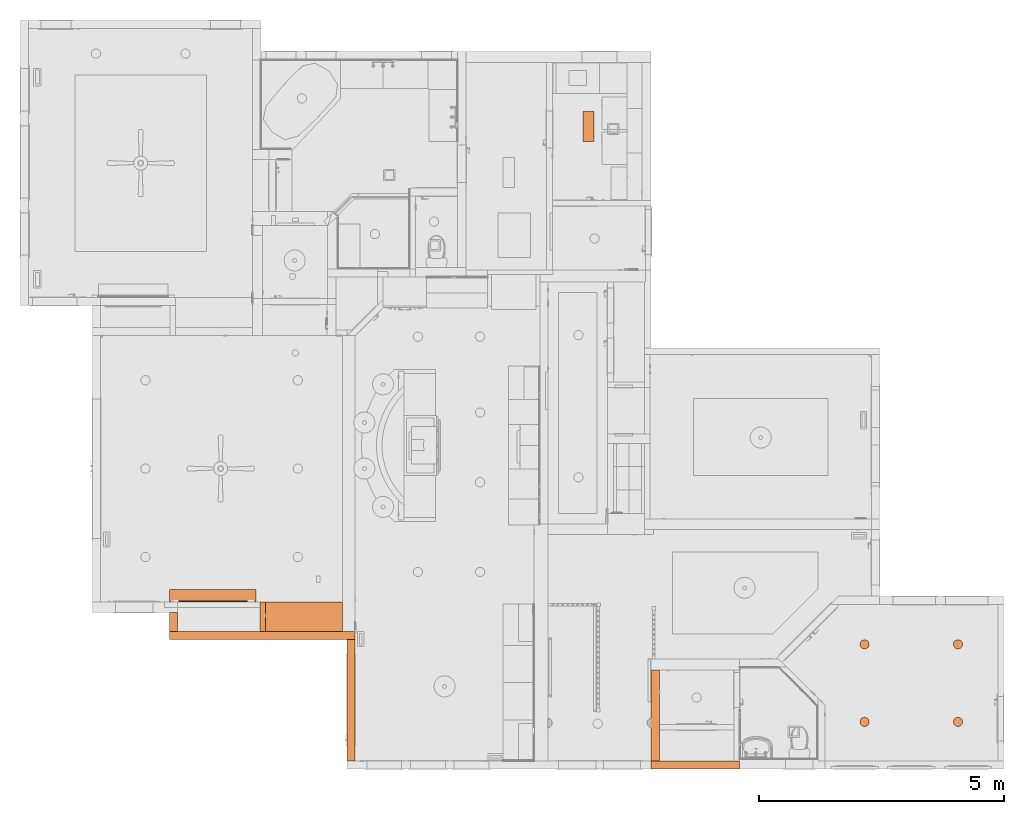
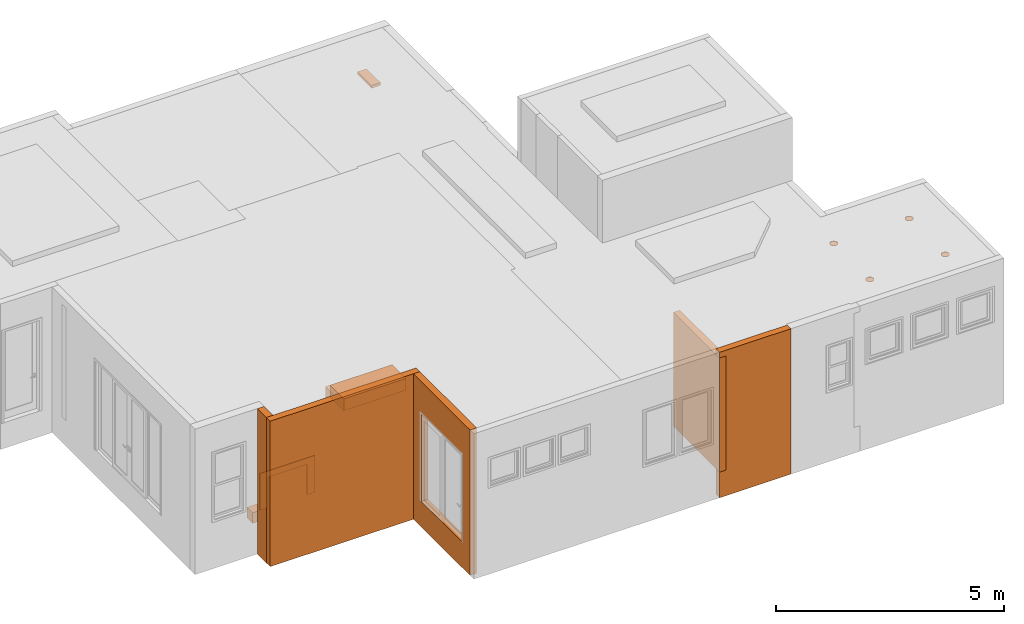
# One storey, part 76 of 103: 15 proxies.
"""IFC2X3 building model written with IfcOpenShell, lengths in inches."""

from ifc_helpers import new_model, entity, si_unit, converted_unit, derived_unit, money_unit, direction, frame, origin_with_axes, place, context, subcontext, project, spatial, open_shell, faceted_brep, surface_model, source, transform, mapped, material, type_object, element, save


model = new_model("IFC2X3")

# Units and contexts
model_context = context("Model", 3, precision=0.00039370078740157, world=origin_with_axes(), true_north=direction((0.0, 1.0)))
plan_context = context("Plan", 3, precision=0.00039370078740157, world=origin_with_axes(), true_north=direction((0.0, 1.0)))
body_context = subcontext(model_context, "Body", "Model", "MODEL_VIEW")
ifc_project = project(units=[converted_unit("LENGTHUNIT", "INCH", entity("IfcPositiveLengthMeasure", 0.0254), si_unit("LENGTHUNIT", "METRE"), dimensions=[1, 0, 0, 0, 0, 0, 0]), converted_unit("AREAUNIT", "SQUARE_FOOT", entity("IfcPositiveLengthMeasure", 0.09290304), si_unit("AREAUNIT", "SQUARE_METRE"), dimensions=[2, 0, 0, 0, 0, 0, 0]), si_unit("PLANEANGLEUNIT", "RADIAN"), si_unit("SOLIDANGLEUNIT", "STERADIAN"), money_unit("USD"), converted_unit("TIMEUNIT", "Year", entity("IfcTimeMeasure", 31557600.0), si_unit("TIMEUNIT", "SECOND"), dimensions=[0, 0, 1, 0, 0, 0, 0]), si_unit("MASSUNIT", "GRAM", prefix="KILO"), si_unit("THERMODYNAMICTEMPERATUREUNIT", "DEGREE_CELSIUS"), si_unit("LUMINOUSINTENSITYUNIT", "LUMEN"), si_unit("ENERGYUNIT", "JOULE", prefix="MEGA"), derived_unit("SPECIFICHEATCAPACITYUNIT", [(si_unit("ENERGYUNIT", "JOULE"), 1), (si_unit("MASSUNIT", "GRAM", prefix="KILO"), -1), (si_unit("THERMODYNAMICTEMPERATUREUNIT", "KELVIN"), -1)])], contexts=[model_context, plan_context])

# Site, building, storey
site_placement = place(None, origin_with_axes())
site = spatial("IfcSite", under=ifc_project, at=site_placement, Name="Site", CompositionType="ELEMENT")
building_placement = place(site_placement, origin_with_axes())
building = spatial("IfcBuilding", under=site, at=building_placement, Name="Building", CompositionType="ELEMENT")
storey_placement = place(building_placement, frame((0.0, 0.0, 127.9999999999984), z_axis=(0.0, 0.0, 1.0), x_axis=(1.0, 0.0, 0.0)))
storey = spatial("IfcBuildingStorey", under=building, at=storey_placement, Name="Second Floor", CompositionType="ELEMENT", Elevation=128.0)

# Proxies
building_element_proxy_type_1 = type_object("IfcBuildingElementProxyType", Name="Recessed Spot", PredefinedType="NOTDEFINED")
shared_shape_1 = source(origin_with_axes(), body_context, "Body", "SurfaceModel", [
    faceted_brep([(3.749999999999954, 0.0, -0.4999999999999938), (3.523847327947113, 1.282575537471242, -0.4999999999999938), (3.523847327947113, 1.282575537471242, 0.0), (3.749999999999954, 0.0, 0.0), (3.523847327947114, -1.282575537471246, -0.4999999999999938), (2.872666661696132, -2.410453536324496, -0.4999999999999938), (1.874999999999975, -3.247595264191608, -0.4999999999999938), (0.6511806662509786, -3.693029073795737, -0.4999999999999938), (-0.6511806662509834, -3.693029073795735, -0.4999999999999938), (-1.87499999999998, -3.247595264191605, -0.4999999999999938), (-2.872666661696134, -2.410453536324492, -0.4999999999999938), (-3.523847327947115, -1.282575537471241, -0.4999999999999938), (-3.749999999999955, 0.0, -0.4999999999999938), (-3.523847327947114, 1.282575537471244, -0.4999999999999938), (-2.872666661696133, 2.410453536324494, -0.4999999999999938), (-1.874999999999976, 3.247595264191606, -0.4999999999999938), (-0.6511806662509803, 3.693029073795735, -0.4999999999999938), (0.6511806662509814, 3.693029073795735, -0.4999999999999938), (1.874999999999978, 3.247595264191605, -0.4999999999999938), (2.872666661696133, 2.410453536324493, -0.4999999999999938), (3.24999999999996, 0.0, -0.4999999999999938), (3.054001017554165, 1.11156546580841, -0.4999999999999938), (2.489644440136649, 2.089059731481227, -0.4999999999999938), (1.62499999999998, 2.814582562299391, -0.4999999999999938), (0.5643565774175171, 3.200625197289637, -0.4999999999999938), (-0.5643565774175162, 3.200625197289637, -0.4999999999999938), (-1.62499999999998, 2.814582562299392, -0.4999999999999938), (-2.489644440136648, 2.089059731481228, -0.4999999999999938), (-3.054001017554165, 1.111565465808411, -0.4999999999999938), (-3.24999999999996, 0.0, -0.4999999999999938), (-3.054001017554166, -1.111565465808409, -0.4999999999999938), (-2.48964444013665, -2.089059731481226, -0.4999999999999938), (-1.624999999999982, -2.814582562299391, -0.4999999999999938), (-0.5643565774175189, -3.200625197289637, -0.4999999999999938), (0.5643565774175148, -3.200625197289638, -0.4999999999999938), (1.624999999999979, -2.814582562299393, -0.4999999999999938), (2.489644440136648, -2.08905973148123, -0.4999999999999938), (3.054001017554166, -1.111565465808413, -0.4999999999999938), (2.872666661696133, 2.410453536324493, 0.0), (1.874999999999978, 3.247595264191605, 0.0), (0.6511806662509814, 3.693029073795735, 0.0), (-0.6511806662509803, 3.693029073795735, 0.0), (-1.874999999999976, 3.247595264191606, 0.0), (-2.872666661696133, 2.410453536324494, 0.0), (-3.523847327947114, 1.282575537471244, 0.0), (-3.749999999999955, 0.0, 0.0), (-3.523847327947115, -1.282575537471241, 0.0), (-2.872666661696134, -2.410453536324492, 0.0), (-1.87499999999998, -3.247595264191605, 0.0), (-0.6511806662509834, -3.693029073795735, 0.0), (0.6511806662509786, -3.693029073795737, 0.0), (1.874999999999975, -3.247595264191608, 0.0), (2.872666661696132, -2.410453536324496, 0.0), (3.523847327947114, -1.282575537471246, 0.0), (3.24999999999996, 0.0, 0.0), (3.054001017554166, -1.111565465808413, 0.0), (2.489644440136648, -2.08905973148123, 0.0), (1.624999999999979, -2.814582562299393, 0.0), (0.5643565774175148, -3.200625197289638, 0.0), (-0.5643565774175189, -3.200625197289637, 0.0), (-1.624999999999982, -2.814582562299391, 0.0), (-2.48964444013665, -2.089059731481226, 0.0), (-3.054001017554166, -1.111565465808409, 0.0), (-3.24999999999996, 0.0, 0.0), (-3.054001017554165, 1.111565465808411, 0.0), (-2.489644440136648, 2.089059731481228, 0.0), (-1.62499999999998, 2.814582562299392, 0.0), (-0.5643565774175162, 3.200625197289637, 0.0), (0.5643565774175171, 3.200625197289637, 0.0), (1.62499999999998, 2.814582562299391, 0.0), (2.489644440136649, 2.089059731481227, 0.0), (3.054001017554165, 1.11156546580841, 0.0)], [[[0, 1, 2, 3]], [[0, 4, 5, 6, 7, 8, 9, 10, 11, 12, 13, 14, 15, 16, 17, 18, 19, 1], [20, 21, 22, 23, 24, 25, 26, 27, 28, 29, 30, 31, 32, 33, 34, 35, 36, 37]], [[1, 19, 38, 2]], [[3, 2, 38, 39, 40, 41, 42, 43, 44, 45, 46, 47, 48, 49, 50, 51, 52, 53], [54, 55, 56, 57, 58, 59, 60, 61, 62, 63, 64, 65, 66, 67, 68, 69, 70, 71]], [[4, 0, 3, 53]], [[5, 4, 53, 52]], [[6, 5, 52, 51]], [[7, 6, 51, 50]], [[8, 7, 50, 49]], [[9, 8, 49, 48]], [[10, 9, 48, 47]], [[11, 10, 47, 46]], [[12, 11, 46, 45]], [[13, 12, 45, 44]], [[14, 13, 44, 43]], [[15, 14, 43, 42]], [[16, 15, 42, 41]], [[17, 16, 41, 40]], [[18, 17, 40, 39]], [[19, 18, 39, 38]], [[21, 20, 54, 71]], [[22, 21, 71, 70]], [[23, 22, 70, 69]], [[24, 23, 69, 68]], [[25, 24, 68, 67]], [[26, 25, 67, 66]], [[27, 26, 66, 65]], [[28, 27, 65, 64]], [[29, 28, 64, 63]], [[30, 29, 63, 62]], [[31, 30, 62, 61]], [[32, 31, 61, 60]], [[33, 32, 60, 59]], [[34, 33, 59, 58]], [[35, 34, 58, 57]], [[36, 35, 57, 56]], [[37, 36, 56, 55]], [[20, 37, 55, 54]]]),
    surface_model("IfcShellBasedSurfaceModel", [(3.24999999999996, 0.0, -0.4460629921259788), (3.054001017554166, -1.111565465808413, -0.4460629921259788), (2.489644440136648, -2.08905973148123, -0.4460629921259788), (1.624999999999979, -2.814582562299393, -0.4460629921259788), (0.5643565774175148, -3.200625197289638, -0.4460629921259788), (-0.5643565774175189, -3.200625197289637, -0.4460629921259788), (-1.624999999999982, -2.814582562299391, -0.4460629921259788), (-2.48964444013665, -2.089059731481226, -0.4460629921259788), (-3.054001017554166, -1.111565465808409, -0.4460629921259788), (-3.24999999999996, 0.0, -0.4460629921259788), (-3.054001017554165, 1.111565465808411, -0.4460629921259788), (-2.489644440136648, 2.089059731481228, -0.4460629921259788), (-1.62499999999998, 2.814582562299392, -0.4460629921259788), (-0.5643565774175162, 3.200625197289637, -0.4460629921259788), (0.5643565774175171, 3.200625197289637, -0.4460629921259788), (1.62499999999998, 2.814582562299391, -0.4460629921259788), (2.489644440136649, 2.089059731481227, -0.4460629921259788), (3.054001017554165, 1.11156546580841, -0.4460629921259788)], [open_shell([[[0, 1, 2, 3, 4, 5, 6, 7, 8, 9, 10, 11, 12, 13, 14, 15, 16, 17]]])]),
])
for number, where, z_axis, x_axis, name in (
    (1, (415.9999999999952, 37.99999999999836, 119.9999999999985), (0.0, 0.0, 1.0), (0.0, 1.0, 0.0), "L-03"),
    (2, (415.9999999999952, 100.2499999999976, 119.9999999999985), (0.0, 0.0, 1.0), (0.0, 1.0, 0.0), "L-03"),
    (3, (490.9999999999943, 100.2499999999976, 119.9999999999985), (0.0, 0.0, 1.0), (0.0, 1.0, 0.0), "L-03"),
    (4, (490.9999999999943, 37.99999999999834, 119.9999999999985), (0.0, 0.0, 1.0), (0.0, 1.0, 0.0), "L-03"),
):
    element("IfcBuildingElementProxy", number, at=place(storey_placement, frame(where, z_axis=z_axis, x_axis=x_axis)), inside=storey, type_object=building_element_proxy_type_1, Name=name, context=body_context, shape_type="MappedRepresentation", body=[
        mapped(shared_shape_1, transform((0.0, 0.0, 0.0))),
    ])
building_element_proxy_type_2 = type_object("IfcBuildingElementProxyType", Name="Fluorescent Lamp", PredefinedType="NOTDEFINED")
shared_shape_2 = source(origin_with_axes(), body_context, "Body", "SurfaceModel", [
    faceted_brep([(0.0, 0.0, -2.999999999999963), (23.9999999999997, 0.0, -2.999999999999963), (23.9999999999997, 0.0, 0.0), (0.0, 0.0, 0.0), (0.0, 8.99999999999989, -2.999999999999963), (23.9999999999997, 8.99999999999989, -2.999999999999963), (1.57480314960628, 1.57480314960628, -2.999999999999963), (22.42519685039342, 1.57480314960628, -2.999999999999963), (22.42519685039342, 7.425196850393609, -2.999999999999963), (1.57480314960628, 7.425196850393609, -2.999999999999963), (23.9999999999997, 8.99999999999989, 0.0), (0.0, 8.99999999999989, 0.0), (1.57480314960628, 1.57480314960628, 0.0), (1.57480314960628, 7.425196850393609, 0.0), (22.42519685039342, 7.425196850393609, 0.0), (22.42519685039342, 1.57480314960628, 0.0)], [[[0, 1, 2, 3]], [[0, 4, 5, 1], [6, 7, 8, 9]], [[1, 5, 10, 2]], [[3, 2, 10, 11], [12, 13, 14, 15]], [[4, 0, 3, 11]], [[5, 4, 11, 10]], [[7, 6, 12, 15]], [[8, 7, 15, 14]], [[9, 8, 14, 13]], [[6, 9, 13, 12]]]),
    faceted_brep([(1.57480314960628, 1.57480314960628, -0.3307086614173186), (22.42519685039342, 1.57480314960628, -0.3307086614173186), (22.42519685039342, 1.57480314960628, 0.0), (1.57480314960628, 1.57480314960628, 0.0), (1.57480314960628, 7.425196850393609, -0.3307086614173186), (22.42519685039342, 7.425196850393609, -0.3307086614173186), (22.42519685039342, 7.425196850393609, 0.0), (1.57480314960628, 7.425196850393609, 0.0)], [[[0, 1, 2, 3]], [[0, 4, 5, 1]], [[1, 5, 6, 2]], [[3, 2, 6, 7]], [[4, 0, 3, 7]], [[5, 4, 7, 6]]]),
    surface_model("IfcShellBasedSurfaceModel", [(22.38582677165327, 1.614173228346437, -2.999999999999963), (1.574803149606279, 1.614173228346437, -2.999999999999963), (1.574803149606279, 7.385826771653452, -2.999999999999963), (22.38582677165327, 7.385826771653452, -2.999999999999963)], [open_shell([[[0, 1, 2, 3]]])]),
    faceted_brep([(1.574803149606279, 1.57480314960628, -2.999999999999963), (22.42519685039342, 1.57480314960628, -2.999999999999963), (22.42519685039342, 1.57480314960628, -1.425196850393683), (1.574803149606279, 1.57480314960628, -1.425196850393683), (1.574803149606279, 7.425196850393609, -2.999999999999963), (22.42519685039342, 7.425196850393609, -2.999999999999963), (1.614173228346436, 1.614173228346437, -2.999999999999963), (22.38582677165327, 1.614173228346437, -2.999999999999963), (22.38582677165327, 7.385826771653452, -2.999999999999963), (1.614173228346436, 7.385826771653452, -2.999999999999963), (22.42519685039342, 7.425196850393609, -1.425196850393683), (1.574803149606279, 7.425196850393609, -1.425196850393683), (1.614173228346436, 1.614173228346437, -1.425196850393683), (1.614173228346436, 7.385826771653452, -1.425196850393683), (22.38582677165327, 7.385826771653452, -1.425196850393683), (22.38582677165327, 1.614173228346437, -1.425196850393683)], [[[0, 1, 2, 3]], [[0, 4, 5, 1], [6, 7, 8, 9]], [[1, 5, 10, 2]], [[3, 2, 10, 11], [12, 13, 14, 15]], [[4, 0, 3, 11]], [[5, 4, 11, 10]], [[7, 6, 12, 15]], [[8, 7, 15, 14]], [[9, 8, 14, 13]], [[6, 9, 13, 12]]]),
    faceted_brep([(1.57480314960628, 3.037401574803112, -1.590551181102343), (1.57480314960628, 3.454984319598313, -1.417582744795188), (22.42519685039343, 3.454984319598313, -1.417582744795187), (22.42519685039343, 3.037401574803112, -1.590551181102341), (1.57480314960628, 2.619818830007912, -1.417582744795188), (1.57480314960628, 2.446850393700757, -0.9999999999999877), (1.57480314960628, 2.619818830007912, -0.5824172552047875), (1.57480314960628, 3.037401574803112, -0.4094488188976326), (1.57480314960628, 3.454984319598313, -0.5824172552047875), (1.57480314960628, 3.627952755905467, -0.9999999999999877), (1.57480314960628, 3.037401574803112, -1.511811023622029), (1.57480314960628, 3.399306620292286, -1.361905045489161), (1.57480314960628, 3.549212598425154, -0.9999999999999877), (1.57480314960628, 3.399306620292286, -0.6380949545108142), (1.57480314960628, 3.037401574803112, -0.4881889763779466), (1.57480314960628, 2.675496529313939, -0.6380949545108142), (1.57480314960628, 2.525590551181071, -0.9999999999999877), (1.57480314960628, 2.675496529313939, -1.361905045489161), (22.42519685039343, 3.627952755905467, -0.9999999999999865), (22.42519685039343, 3.454984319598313, -0.5824172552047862), (22.42519685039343, 3.037401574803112, -0.4094488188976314), (22.42519685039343, 2.619818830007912, -0.5824172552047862), (22.42519685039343, 2.446850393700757, -0.9999999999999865), (22.42519685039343, 2.619818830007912, -1.417582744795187), (22.42519685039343, 3.037401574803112, -1.511811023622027), (22.42519685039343, 2.675496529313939, -1.36190504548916), (22.42519685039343, 2.525590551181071, -0.9999999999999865), (22.42519685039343, 2.675496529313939, -0.6380949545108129), (22.42519685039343, 3.037401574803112, -0.4881889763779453), (22.42519685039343, 3.399306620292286, -0.6380949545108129), (22.42519685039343, 3.549212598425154, -0.9999999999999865), (22.42519685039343, 3.399306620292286, -1.36190504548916)], [[[0, 1, 2, 3]], [[0, 4, 5, 6, 7, 8, 9, 1], [10, 11, 12, 13, 14, 15, 16, 17]], [[1, 9, 18, 2]], [[3, 2, 18, 19, 20, 21, 22, 23], [24, 25, 26, 27, 28, 29, 30, 31]], [[4, 0, 3, 23]], [[5, 4, 23, 22]], [[6, 5, 22, 21]], [[7, 6, 21, 20]], [[8, 7, 20, 19]], [[9, 8, 19, 18]], [[11, 10, 24, 31]], [[12, 11, 31, 30]], [[13, 12, 30, 29]], [[14, 13, 29, 28]], [[15, 14, 28, 27]], [[16, 15, 27, 26]], [[17, 16, 26, 25]], [[10, 17, 25, 24]]]),
    faceted_brep([(1.57480314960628, 4.499999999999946, -1.590551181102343), (1.57480314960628, 4.917582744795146, -1.417582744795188), (22.42519685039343, 4.917582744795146, -1.417582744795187), (22.42519685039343, 4.499999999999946, -1.590551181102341), (1.57480314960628, 4.082417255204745, -1.417582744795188), (1.57480314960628, 3.90944881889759, -0.9999999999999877), (1.57480314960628, 4.082417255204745, -0.5824172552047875), (1.57480314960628, 4.499999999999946, -0.4094488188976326), (1.57480314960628, 4.917582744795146, -0.5824172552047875), (1.57480314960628, 5.090551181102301, -0.9999999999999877), (1.57480314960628, 4.499999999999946, -1.511811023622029), (1.57480314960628, 4.861905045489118, -1.361905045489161), (1.57480314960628, 5.011811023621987, -0.9999999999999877), (1.57480314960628, 4.861905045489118, -0.6380949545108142), (1.57480314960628, 4.499999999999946, -0.4881889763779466), (1.57480314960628, 4.138094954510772, -0.6380949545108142), (1.57480314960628, 3.988188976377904, -0.9999999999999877), (1.57480314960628, 4.138094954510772, -1.361905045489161), (22.42519685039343, 5.090551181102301, -0.9999999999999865), (22.42519685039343, 4.917582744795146, -0.5824172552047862), (22.42519685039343, 4.499999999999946, -0.4094488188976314), (22.42519685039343, 4.082417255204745, -0.5824172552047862), (22.42519685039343, 3.90944881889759, -0.9999999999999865), (22.42519685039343, 4.082417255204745, -1.417582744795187), (22.42519685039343, 4.499999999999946, -1.511811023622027), (22.42519685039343, 4.138094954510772, -1.36190504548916), (22.42519685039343, 3.988188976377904, -0.9999999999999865), (22.42519685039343, 4.138094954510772, -0.6380949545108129), (22.42519685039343, 4.499999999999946, -0.4881889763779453), (22.42519685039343, 4.861905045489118, -0.6380949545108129), (22.42519685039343, 5.011811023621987, -0.9999999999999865), (22.42519685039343, 4.861905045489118, -1.36190504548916)], [[[0, 1, 2, 3]], [[0, 4, 5, 6, 7, 8, 9, 1], [10, 11, 12, 13, 14, 15, 16, 17]], [[1, 9, 18, 2]], [[3, 2, 18, 19, 20, 21, 22, 23], [24, 25, 26, 27, 28, 29, 30, 31]], [[4, 0, 3, 23]], [[5, 4, 23, 22]], [[6, 5, 22, 21]], [[7, 6, 21, 20]], [[8, 7, 20, 19]], [[9, 8, 19, 18]], [[11, 10, 24, 31]], [[12, 11, 31, 30]], [[13, 12, 30, 29]], [[14, 13, 29, 28]], [[15, 14, 28, 27]], [[16, 15, 27, 26]], [[17, 16, 26, 25]], [[10, 17, 25, 24]]]),
    faceted_brep([(1.57480314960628, 5.962598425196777, -1.590551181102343), (1.57480314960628, 6.380181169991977, -1.417582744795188), (22.42519685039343, 6.380181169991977, -1.417582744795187), (22.42519685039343, 5.962598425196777, -1.590551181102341), (1.57480314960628, 5.545015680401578, -1.417582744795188), (1.57480314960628, 5.372047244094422, -0.9999999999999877), (1.57480314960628, 5.545015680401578, -0.5824172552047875), (1.57480314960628, 5.962598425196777, -0.4094488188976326), (1.57480314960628, 6.380181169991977, -0.5824172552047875), (1.57480314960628, 6.553149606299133, -0.9999999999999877), (1.57480314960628, 5.962598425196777, -1.511811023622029), (1.57480314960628, 6.324503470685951, -1.361905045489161), (1.57480314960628, 6.474409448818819, -0.9999999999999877), (1.57480314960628, 6.324503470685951, -0.6380949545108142), (1.57480314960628, 5.962598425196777, -0.4881889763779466), (1.57480314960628, 5.600693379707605, -0.6380949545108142), (1.57480314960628, 5.450787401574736, -0.9999999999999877), (1.57480314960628, 5.600693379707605, -1.361905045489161), (22.42519685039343, 6.553149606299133, -0.9999999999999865), (22.42519685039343, 6.380181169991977, -0.5824172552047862), (22.42519685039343, 5.962598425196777, -0.4094488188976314), (22.42519685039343, 5.545015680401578, -0.5824172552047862), (22.42519685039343, 5.372047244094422, -0.9999999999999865), (22.42519685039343, 5.545015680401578, -1.417582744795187), (22.42519685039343, 5.962598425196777, -1.511811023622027), (22.42519685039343, 5.600693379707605, -1.36190504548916), (22.42519685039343, 5.450787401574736, -0.9999999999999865), (22.42519685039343, 5.600693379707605, -0.6380949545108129), (22.42519685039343, 5.962598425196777, -0.4881889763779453), (22.42519685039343, 6.324503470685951, -0.6380949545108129), (22.42519685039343, 6.474409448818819, -0.9999999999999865), (22.42519685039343, 6.324503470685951, -1.36190504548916)], [[[0, 1, 2, 3]], [[0, 4, 5, 6, 7, 8, 9, 1], [10, 11, 12, 13, 14, 15, 16, 17]], [[1, 9, 18, 2]], [[3, 2, 18, 19, 20, 21, 22, 23], [24, 25, 26, 27, 28, 29, 30, 31]], [[4, 0, 3, 23]], [[5, 4, 23, 22]], [[6, 5, 22, 21]], [[7, 6, 21, 20]], [[8, 7, 20, 19]], [[9, 8, 19, 18]], [[11, 10, 24, 31]], [[12, 11, 31, 30]], [[13, 12, 30, 29]], [[14, 13, 29, 28]], [[15, 14, 28, 27]], [[16, 15, 27, 26]], [[17, 16, 26, 25]], [[10, 17, 25, 24]]]),
])
proxy_1_placement = place(storey_placement, frame((189.499670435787, 528.5000000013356, 119.9999999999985), z_axis=(0.0, 0.0, 1.0), x_axis=(0.0, -1.0, 0.0)))
element("IfcBuildingElementProxy", 5, at=proxy_1_placement, inside=storey, type_object=building_element_proxy_type_2, Name="L-15", context=body_context, shape_type="MappedRepresentation", body=[
    mapped(shared_shape_2, transform((0.0, 0.0, 0.0))),
])
ifc_material = material(Name="Generic - Structural")
building_element_proxy_type_3 = type_object("IfcBuildingElementProxyType", Name="Generic - Structural 11\"", PredefinedType="NOTDEFINED")
proxy_2_placement = place(storey_placement, frame((-72.99233783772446, 134.499999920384, 0.0), z_axis=(0.0, 0.0, 1.0), x_axis=(1.0, 0.0, 0.0)))
element("IfcBuildingElementProxy", 6, at=proxy_2_placement, inside=storey, type_object=building_element_proxy_type_3, material=ifc_material, Name="SLA - 005", context=body_context, shape_type="Brep", body=[
    faceted_brep([(0.0, 0.0, 10.99999999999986), (0.0, 0.0, 0.0), (0.0, 9.924330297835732, 0.0), (0.0, 9.924330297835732, 10.99999999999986), (-69.49615345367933, 0.0, 10.99999999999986), (-69.49615345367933, 0.0, 0.0), (-69.49615345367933, 9.924330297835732, 0.0), (-69.49615345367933, 9.924330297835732, 10.99999999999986)], [[[0, 1, 2, 3]], [[4, 5, 1, 0]], [[2, 1, 5, 6]], [[3, 2, 6, 7]], [[4, 0, 3, 7]], [[7, 6, 5, 4]]]),
])
building_element_proxy_type_4 = type_object("IfcBuildingElementProxyType", Name="Generic - Structural 6 1/2\"", PredefinedType="NOTDEFINED")
proxy_3_placement = place(storey_placement, frame((244.4999999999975, 88.49999999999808, 0.0), z_axis=(0.0, 0.0, 1.0), x_axis=(0.0, -1.0, 0.0)))
element("IfcBuildingElementProxy", 7, at=proxy_3_placement, inside=storey, type_object=building_element_proxy_type_4, material=ifc_material, Name="SW - 087", context=body_context, shape_type="Brep", body=[
    faceted_brep([(8.999999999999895, 0.0, 119.9999999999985), (88.4999998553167, 0.0, 119.9999999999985), (88.49999986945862, 6.499999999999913, 119.9999999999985), (8.999999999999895, 6.499999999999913, 119.9999999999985), (8.999999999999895, 0.0, 0.0), (88.4999998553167, 0.0, 0.0), (88.49999986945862, 6.499999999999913, 0.0), (8.999999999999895, 6.499999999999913, 0.0)], [[[0, 1, 2, 3]], [[4, 5, 1, 0]], [[6, 2, 1, 5]], [[3, 2, 6, 7]], [[7, 4, 0, 3]], [[7, 6, 5, 4]]]),
])
proxy_4_placement = place(storey_placement, frame((6.499999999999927, 110.4999999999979, -26.99999999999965), z_axis=(0.0, 0.0, 1.0), x_axis=(0.0, -1.0, 0.0)))
element("IfcBuildingElementProxy", 8, at=proxy_4_placement, inside=storey, type_object=building_element_proxy_type_4, material=ifc_material, Name="SW - 099", context=body_context, shape_type="Brep", body=[
    faceted_brep([(103.9999998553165, -6.499999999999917, 152.9999999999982), (6.499999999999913, -6.499999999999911, 152.9999999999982), (6.499999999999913, -6.499999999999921, 0.0), (103.9999998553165, -6.499999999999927, 0.0), (90.00000046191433, -6.499999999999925, 26.99999999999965), (20.00000046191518, -6.49999999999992, 26.99999999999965), (20.00000046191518, -6.499999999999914, 118.9999999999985), (90.00000046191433, -6.499999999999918, 118.9999999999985), (103.9999998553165, 0.0, 152.9999999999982), (6.499999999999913, 0.0, 152.9999999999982), (6.499999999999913, 0.0, 0.0), (103.9999998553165, 0.0, 0.0), (90.00000046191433, 0.0, 26.99999999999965), (20.00000046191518, 0.0, 26.99999999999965), (20.00000046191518, 0.0, 118.9999999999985), (90.00000046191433, 0.0, 118.9999999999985)], [[[0, 1, 2, 3], [4, 5, 6, 7]], [[8, 9, 1, 0]], [[10, 2, 1, 9]], [[3, 2, 10, 11]], [[11, 8, 0, 3]], [[12, 13, 5, 4]], [[13, 14, 6, 5]], [[14, 15, 7, 6]], [[15, 12, 4, 7]], [[11, 10, 9, 8], [12, 15, 14, 13]]]),
])
proxy_5_placement = place(storey_placement, frame((6.499798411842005, 110.4999999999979, -26.99999999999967), z_axis=(0.0, 0.0, 1.0), x_axis=(-1.0, 0.0, 0.0)))
element("IfcBuildingElementProxy", 9, at=proxy_5_placement, inside=storey, type_object=building_element_proxy_type_4, material=ifc_material, Name="SW - 109", context=body_context, shape_type="Brep", body=[
    faceted_brep([(148.9997984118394, 0.0, 152.9999999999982), (148.9997984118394, 6.499999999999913, 152.9999999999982), (-0.0002015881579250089, 6.49999999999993, 152.9999999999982), (-0.0002015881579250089, 0.0, 152.9999999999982), (148.9997984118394, 0.0, 0.0), (148.9997984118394, 6.499999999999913, 0.0), (-0.0002015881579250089, 6.499999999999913, 0.0), (-0.0002015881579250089, 0.0, 0.0)], [[[0, 1, 2, 3]], [[1, 0, 4, 5]], [[1, 5, 6, 2]], [[7, 3, 2, 6]], [[4, 0, 3, 7]], [[5, 4, 7, 6]]]),
])
proxy_6_placement = place(storey_placement, frame((-135.9999999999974, 110.4999999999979, -26.9999999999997), z_axis=(0.0, 0.0, 1.0), x_axis=(0.0, 1.0, 0.0)))
element("IfcBuildingElementProxy", 10, at=proxy_6_placement, inside=storey, type_object=building_element_proxy_type_4, material=ifc_material, Name="SW - 145", context=body_context, shape_type="Brep", body=[
    faceted_brep([(15.49999999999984, 0.0, 0.0), (15.49999999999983, 0.0, 152.9999999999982), (0.0, 0.0, 152.9999999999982), (0.0, 0.0, 0.0), (15.49999884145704, 6.499999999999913, 0.0), (15.49999884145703, 6.49999999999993, 152.9999999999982), (0.0, 6.49999999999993, 152.9999999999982), (0.0, 6.499999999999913, 0.0)], [[[0, 1, 2, 3]], [[0, 4, 5, 1]], [[2, 1, 5, 6]], [[6, 7, 3, 2]], [[7, 4, 0, 3]], [[5, 4, 7, 6]]]),
])
proxy_7_placement = place(storey_placement, frame((315.499999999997, 6.499999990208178, -26.99999999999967), z_axis=(0.0, 0.0, 1.0), x_axis=(-1.0, 2.175677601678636e-09, 0.0)))
element("IfcBuildingElementProxy", 11, at=proxy_7_placement, inside=storey, type_object=building_element_proxy_type_4, material=ifc_material, Name="SW - 088", context=body_context, shape_type="Brep", body=[
    faceted_brep([(70.99999999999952, 1.544731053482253e-07, 0.0), (70.99999999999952, 1.544731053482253e-07, 26.99999999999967), (64.4999999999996, 1.403312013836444e-07, 26.99999999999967), (64.4999999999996, 1.403312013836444e-07, 146.9999999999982), (70.99999999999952, 1.544731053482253e-07, 146.9999999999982), (70.99999999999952, 1.544731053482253e-07, 152.9999999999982), (0.0, 0.0, 152.9999999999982), (0.0, 0.0, 146.9999999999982), (0.0, 0.0, 26.99999999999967), (0.0, 0.0, 0.0), (70.99999998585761, 6.500000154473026, 0.0), (70.99999998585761, 6.499999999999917, 26.99999999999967), (64.4999999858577, 6.49999999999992, 26.99999999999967), (64.4999999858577, 6.49999999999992, 146.9999999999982), (70.99999998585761, 6.499999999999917, 146.9999999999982), (70.99999998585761, 6.500000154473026, 152.9999999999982), (-1.414189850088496e-08, 6.499999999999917, 152.9999999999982), (-1.414189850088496e-08, 6.499999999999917, 146.9999999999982), (-1.414189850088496e-08, 6.499999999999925, 26.99999999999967), (-1.414189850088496e-08, 6.499999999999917, 0.0)], [[[0, 1, 2, 3, 4, 5, 6, 7, 8, 9]], [[10, 11, 1, 0]], [[12, 2, 1, 11]], [[13, 3, 2, 12]], [[14, 4, 3, 13]], [[5, 4, 14, 15]], [[5, 15, 16, 6]], [[9, 8, 7, 6, 16, 17, 18, 19]], [[10, 0, 9, 19]], [[13, 12, 11, 10, 19, 18, 17, 16, 15, 14]]]),
])
building_element_proxy_type_5 = type_object("IfcBuildingElementProxyType", Name="Generic - Structural 4 1/2\"", PredefinedType="NOTDEFINED")
proxy_8_placement = place(storey_placement, frame((-65.49999999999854, 110.4999999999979, 0.0), z_axis=(0.0, 0.0, 1.0), x_axis=(0.0, 1.0, 0.0)))
element("IfcBuildingElementProxy", 12, at=proxy_8_placement, inside=storey, type_object=building_element_proxy_type_5, material=ifc_material, Name="SW - 110", context=body_context, shape_type="Brep", body=[
    faceted_brep([(23.99999999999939, 4.499999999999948, 0.0), (23.99999999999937, 4.499999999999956, 118.4999999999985), (23.99999999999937, 0.0, 118.4999999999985), (23.99999999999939, 0.0, 0.0), (0.0, 4.499999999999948, 0.0), (1.300766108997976e-06, 4.499999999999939, 118.4999999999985), (1.224250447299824e-06, 0.0, 118.4999999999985), (0.0, 0.0, 0.0)], [[[0, 1, 2, 3]], [[4, 5, 1, 0]], [[5, 6, 2, 1]], [[3, 2, 6, 7]], [[7, 4, 0, 3]], [[7, 6, 5, 4]]]),
])
building_element_proxy_type_6 = type_object("IfcBuildingElementProxyType", Name="Generic - Structural 12 1/2\"", PredefinedType="NOTDEFINED")
proxy_9_placement = place(storey_placement, frame((-65.50000000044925, 134.5003459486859, 105.9999999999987), z_axis=(0.0, 0.0, 1.0), x_axis=(1.0, 0.0, 0.0)))
element("IfcBuildingElementProxy", 13, at=proxy_9_placement, inside=storey, type_object=building_element_proxy_type_6, material=ifc_material, Name="SLA - 015", context=body_context, shape_type="Brep", body=[
    faceted_brep([(0.0, 0.0, 12.49999999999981), (0.0, 0.0, 0.0), (4.846514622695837e-05, -23.99999934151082, 0.0), (4.846514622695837e-05, -23.99999934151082, 12.49999999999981), (61.99967158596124, 0.0001251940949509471, 12.49999999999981), (61.99967158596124, 0.0001251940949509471, 0.0), (61.99956801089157, -24.000345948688, 0.0), (61.99956801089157, -24.000345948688, 12.49999999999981)], [[[0, 1, 2, 3]], [[4, 5, 1, 0]], [[2, 1, 5, 6]], [[3, 2, 6, 7]], [[4, 0, 3, 7]], [[7, 6, 5, 4]]]),
])
proxy_10_placement = place(storey_placement, frame((-65.49999999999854, 134.5000783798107, 105.9999999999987), z_axis=(0.0, 0.0, 1.0), x_axis=(1.0, 0.0, 0.0)))
element("IfcBuildingElementProxy", 14, at=proxy_10_placement, inside=storey, type_object=building_element_proxy_type_6, material=ifc_material, Name="SLA - 015", context=body_context, shape_type="Brep", body=[
    faceted_brep([(0.0, 0.0, 12.49999999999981), (0.0, 0.0, 0.0), (0.0, -23.99999934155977, 0.0), (0.0, -23.99999934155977, 12.49999999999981), (61.99967158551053, 0.0003927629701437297, 12.49999999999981), (61.99967158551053, 0.0003927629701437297, 0.0), (61.99956801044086, -24.00007837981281, 0.0), (61.99956801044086, -24.00007837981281, 12.49999999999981)], [[[0, 1, 2, 3]], [[4, 5, 1, 0]], [[2, 1, 5, 6]], [[3, 2, 6, 7]], [[4, 0, 3, 7]], [[7, 6, 5, 4]]]),
])
building_element_proxy_type_7 = type_object("IfcBuildingElementProxyType", Name="Generic - Structural 38 3/4\"", PredefinedType="NOTDEFINED")
proxy_11_placement = place(storey_placement, frame((-80.23849129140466, 134.499999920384, 10.99999999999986), z_axis=(0.0, 0.0, 1.0), x_axis=(1.0, 0.0, 0.0)))
element("IfcBuildingElementProxy", 15, at=proxy_11_placement, inside=storey, type_object=building_element_proxy_type_7, material=ifc_material, Name="SLA - 006", context=body_context, shape_type="Brep", body=[
    faceted_brep([(-8.01562499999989, 0.9999997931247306, 0.0), (-8.01562499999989, 0.9999997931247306, 31.99999999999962), (-47.0156249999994, 0.9999997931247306, 31.99999999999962), (-47.0156249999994, 0.9999997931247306, 0.0), (-54.99999999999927, 1.000000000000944, 0.0), (-54.99999999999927, 1.000000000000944, 38.75127573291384), (0.0, 0.9999999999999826, 38.75127573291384), (0.0, 0.9999999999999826, 0.0), (-8.01562499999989, -3.485133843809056e-06, 0.0), (-8.01562499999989, -3.485133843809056e-06, 31.99999999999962), (-47.0156249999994, -3.485133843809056e-06, 31.99999999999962), (-47.0156249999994, -3.485133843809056e-06, 0.0), (-54.99999999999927, 0.0, 0.0), (-54.99999999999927, 0.0, 38.75127573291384), (0.0, 0.0, 38.75127573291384), (0.0, 0.0, 0.0)], [[[0, 1, 2, 3, 4, 5, 6, 7]], [[8, 9, 1, 0]], [[9, 10, 2, 1]], [[10, 11, 3, 2]], [[12, 4, 3, 11]], [[12, 13, 5, 4]], [[6, 5, 13, 14]], [[7, 6, 14, 15]], [[7, 15, 8, 0]], [[11, 10, 9, 8, 15, 14, 13, 12]]]),
])

save(model, "model.ifc")
